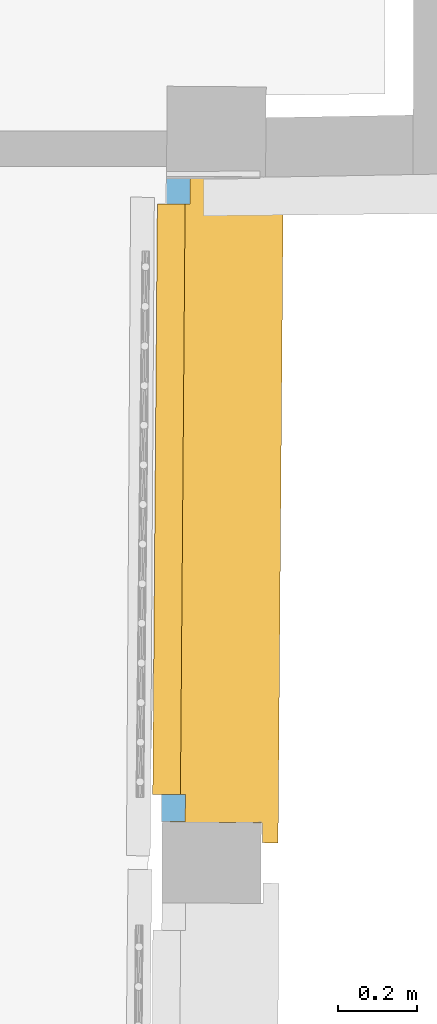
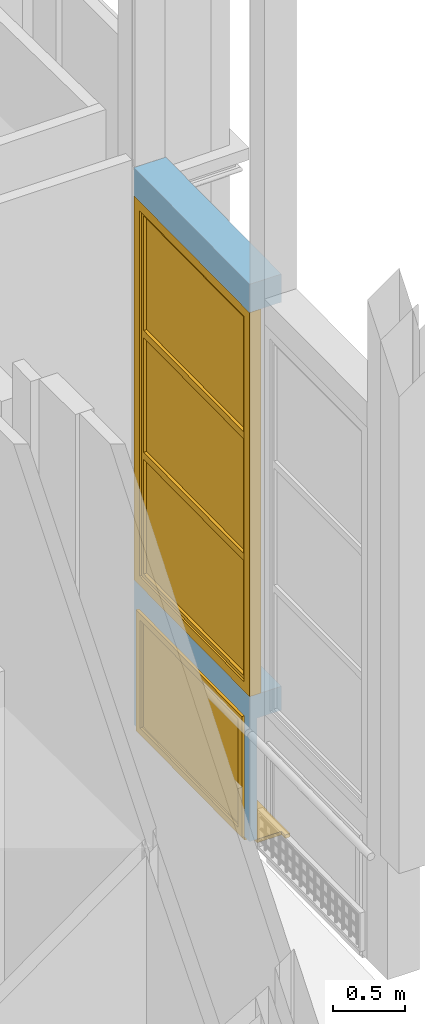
# One storey, part 62 of 97: 2 windows, 2 openings, plus 1 element that does not belong to this part.
"""IFC2X3 building model written with IfcOpenShell, lengths in centimetres."""

from ifc_helpers import new_model, entity, si_unit, converted_unit, direction, frame, origin, origin_with_axes, origin_2d_with_axis, place, context, subcontext, project, spatial, polyline, rectangle, outline, extrude, faceted_brep, shape, source, transform, mapped, material, material_list, layer, layer_set, layer_usage, type_object, element, fill, save


model = new_model("IFC2X3")

# Units and contexts
model_context = context("Model", 3, precision=0.0001, world=origin(), true_north=direction((0.225632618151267, 0.974212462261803, 0.0)))
body_context = subcontext(model_context, "Body", "Model", "MODEL_VIEW")
footprint_context = subcontext(model_context, "FootPrint", "Model", "MODEL_VIEW")
profile_context = subcontext(model_context, "Profile", "Model", "MODEL_VIEW")
ifc_project = project(units=[si_unit("LENGTHUNIT", "METRE", prefix="CENTI"), si_unit("AREAUNIT", "SQUARE_METRE", prefix="CENTI"), si_unit("VOLUMEUNIT", "CUBIC_METRE", prefix="CENTI"), converted_unit("PLANEANGLEUNIT", "DEGREE", entity("IfcRatioMeasure", 0.0174532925), si_unit("PLANEANGLEUNIT", "RADIAN"), dimensions=[0, 0, 0, 0, 0, 0, 0])], contexts=[model_context])

# Site, building, storey
site_placement = place(None, origin_with_axes())
site = spatial("IfcSite", under=ifc_project, at=site_placement, Name="Default Site", CompositionType="ELEMENT")
building_placement = place(site_placement, origin_with_axes())
building = spatial("IfcBuilding", under=site, at=building_placement, Name="Default Building", CompositionType="ELEMENT")
storey_placement = place(building_placement, origin_with_axes())
storey = spatial("IfcBuildingStorey", under=building, at=storey_placement, Name="Rez-de-chaussée", CompositionType="ELEMENT", Elevation=0.0)

# Wall, openings, windows
ifc_material_1 = material(Name="<aucun>")
ifc_layer = layer(ifc_material_1, 25.5)
ifc_layer_set = layer_set([ifc_layer], Name="default")
ifc_layer_usage = layer_usage(ifc_layer_set, "AXIS2", "POSITIVE", -12.75)
wall_type = type_object("IfcWallType", Name="default 255", PredefinedType="NOTDEFINED", material=ifc_layer_set)
wall_placement = place(storey_placement, frame((1084.07627129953, -12.2315382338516, 0.0128503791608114), z_axis=(0.0, 0.0, 1.0), x_axis=(0.00794666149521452, 0.999968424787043, 0.0)))
wall = element("IfcWallStandardCase", 1, at=wall_placement, inside=storey, type_object=wall_type, material=ifc_layer_usage, Name="Enveloppe 728194", context=body_context, shape_type="SweptSolid", body=[
    extrude(rectangle(XDim=162.842182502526, YDim=25.5000000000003, at=origin_2d_with_axis()), frame((81.58448390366, 0.0, -5.42101086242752e-18), z_axis=(0.0, 0.0, 1.0), x_axis=(1.0, 1.03909936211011e-15, 0.0)), (0.0, 0.0, 1.0), 472.782507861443),
])
opening_1_placement = place(wall_placement, frame((0.0223490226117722, -2.27373675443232e-13, 5.57268680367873e-06), z_axis=(0.0, 0.0, 1.0), x_axis=(-1.0, 5.72458747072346e-17, 0.0)))
cartesian_point_1 = entity("IfcCartesianPoint", [-5.55111512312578e-15, -1.77635683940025e-13, 102.685185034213])
cartesian_point_2 = entity("IfcCartesianPoint", [-163.038986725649, -12.7500000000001])
opening_1 = element("IfcOpeningElement", 2, at=opening_1_placement, cuts=wall, Name="4294966483_11", ObjectType="Opening", shapes=[
    shape(body_context, "Body", "Brep", [faceted_brep([(-7.0000001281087, -32.7499957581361, 102.685184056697), (-156.038984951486, -32.7499957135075, 102.685184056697), (-156.038984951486, -32.7499957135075, 2.34121050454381e-10), (-7.0000001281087, -32.7499957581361, 2.34121050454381e-10), (5.11833214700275e-08, 32.7499750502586, 2.34121050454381e-10), (-163.038987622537, 32.7499750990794, 2.34121050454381e-10), (-163.038987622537, 32.7499750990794, 102.685184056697), (5.11833214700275e-08, 32.7499750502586, 102.685184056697), (-7.00000012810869, -32.7499957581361, 2.34121050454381e-10), (-7.00000012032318, -6.75001022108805, 2.34121050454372e-10), (-7.00000012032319, -6.75001022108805, 102.685184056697), (-7.00000004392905, -6.75001022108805, 102.685184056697), (-7.00000004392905, -6.75001022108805, 2.34121050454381e-10), (-1.15235498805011e-07, -6.75001022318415, 2.34121050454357e-10), (-1.15235498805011e-07, -6.75001022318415, 102.685184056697), (-1.15235490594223e-07, -6.74998280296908, 102.685184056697), (-1.15235468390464e-07, -6.74998280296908, 2.34121050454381e-10), (-1.03407487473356e-07, 32.7499750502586, 2.34121050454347e-10), (-1.03407509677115e-07, 32.7499750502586, 102.685184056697), (-156.038984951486, -32.7499899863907, 2.34121050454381e-10), (-156.038984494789, -6.75000444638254, 2.34121050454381e-10), (-163.038984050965, -6.75003186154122, 2.34121050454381e-10), (-163.038987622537, 32.7500213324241, 2.34121050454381e-10), (-1.15235490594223e-07, -6.74998280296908, 2.34121050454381e-10), (-156.038984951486, -32.7499899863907, 102.685184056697), (-156.038984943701, -6.75000444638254, 102.685184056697), (-156.038984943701, -6.75000444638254, 2.34121050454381e-10), (-156.038984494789, -6.75000444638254, 102.685184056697), (-163.038984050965, -6.75000444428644, 102.685184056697), (-163.038984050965, -6.75000444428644, 2.34121050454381e-10), (-163.038984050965, -6.75003186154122, 102.685184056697), (-163.038984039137, 32.7500213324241, 102.685184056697), (-163.038984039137, 32.7500213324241, 2.34121050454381e-10), (-163.038987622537, 32.7500213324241, 102.685184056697)], [[[0, 1, 2, 3]], [[4, 5, 6, 7]], [[0, 8, 9, 10]], [[11, 12, 13, 14]], [[15, 16, 17, 18]], [[3, 19, 20, 21, 22, 4, 23, 12]], [[19, 24, 25, 26]], [[20, 27, 28, 29]], [[21, 30, 31, 32]], [[11, 15, 7, 33, 30, 27, 24, 0]]])]),
    shape(profile_context, "Profile", "GeometricCurveSet", [entity("IfcGeometricCurveSet", [entity("IfcPolyline", [cartesian_point_1, entity("IfcCartesianPoint", [1.38777878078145e-15, -1.77635683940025e-13, 0.0]), entity("IfcCartesianPoint", [-163.038986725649, 0.0, 0.0]), entity("IfcCartesianPoint", [-163.038986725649, 0.0, 102.685185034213]), cartesian_point_1])])]),
    shape(footprint_context, "FootPrint", "GeometricCurveSet", [entity("IfcGeometricCurveSet", [entity("IfcPolyline", [cartesian_point_2, entity("IfcCartesianPoint", [2.77555756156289e-15, -12.7500000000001]), entity("IfcCartesianPoint", [1.38777878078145e-15, 12.75]), entity("IfcCartesianPoint", [-163.038986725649, 12.75]), cartesian_point_2])])]),
])
opening_2_placement = place(wall_placement, frame((0.0664983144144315, 0.0, 122.979261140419), z_axis=(0.0, 0.0, 1.0), x_axis=(-1.0, 5.72458747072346e-17, 0.0)))
cartesian_point_3 = entity("IfcCartesianPoint", [-2.22044604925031e-14, 1.77635683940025e-13, 325.911572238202])
cartesian_point_4 = entity("IfcCartesianPoint", [-162.994837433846, -12.75])
opening_2 = element("IfcOpeningElement", 3, at=opening_2_placement, cuts=wall, Name="4294966480_11", ObjectType="Opening", shapes=[
    shape(body_context, "Body", "SweptSolid", [extrude(outline(polyline([(2.08166817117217e-14, 325.911572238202), (-1.38777878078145e-15, 0.0), (162.994837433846, 0.0), (162.994837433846, 325.911572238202), (2.08166817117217e-14, 325.911572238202)])), frame((0.0, -22.75, 0.0), z_axis=(0.0, 1.0, 0.0), x_axis=(-1.0, 0.0, 0.0)), (0.0, 0.0, 1.0), 45.5)]),
    shape(profile_context, "Profile", "GeometricCurveSet", [entity("IfcGeometricCurveSet", [entity("IfcPolyline", [cartesian_point_3, entity("IfcCartesianPoint", [0.0, 1.77635683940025e-13, 0.0]), entity("IfcCartesianPoint", [-162.994837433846, 1.77635683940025e-13, 0.0]), entity("IfcCartesianPoint", [-162.994837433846, 1.77635683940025e-13, 325.911572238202]), cartesian_point_3])])]),
    shape(footprint_context, "FootPrint", "GeometricCurveSet", [entity("IfcGeometricCurveSet", [entity("IfcPolyline", [cartesian_point_4, entity("IfcCartesianPoint", [1.38777878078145e-15, -12.75]), entity("IfcCartesianPoint", [-1.38777878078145e-15, 12.7500000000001]), entity("IfcCartesianPoint", [-162.994837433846, 12.7500000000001]), cartesian_point_4])])]),
])
ifc_material_2 = material(Name="Transparent")
ifc_material_3 = material(Name="Blanc trafic")
ifc_material_list_1 = material_list([ifc_material_2, ifc_material_3])
window_style_1 = type_object("IfcWindowStyle", Name="Fn 1 montant fixe 2 vitres ép 90", ConstructionType="NOTDEFINED", OperationType="TRIPLE_PANEL_HORIZONTAL", ParameterTakesPrecedence=True, Sizeable=False, material=ifc_material_list_1)
shared_shape = source(origin_with_axes(), body_context, "Body", "Brep", [
    faceted_brep([(-73.4974205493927, 317.911577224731, -4.50000017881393), (-73.4974205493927, 317.911577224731, 4.50000017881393), (-73.4974205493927, 7.99999982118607, 4.50000017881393), (-73.4974205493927, 7.99999982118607, -4.50000017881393), (-81.4974188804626, 325.911569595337, 4.50000017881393), (-81.4974188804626, 2.22044604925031e-14, 4.50000017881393), (-81.4974188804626, 325.911569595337, -4.50000017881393), (-81.4974188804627, 2.22044604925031e-14, -4.50000017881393), (-81.4974188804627, 2.22044604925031e-14, 4.50000017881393), (-81.4974188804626, 2.22044604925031e-14, -4.50000017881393), (73.4974205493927, 7.99999982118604, 4.50000017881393), (73.4974205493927, 7.99999982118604, -4.50000017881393), (81.4974188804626, 2.22044604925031e-14, 4.50000017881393), (73.4974205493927, 7.99999982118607, 4.50000017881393), (81.4974188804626, 2.22044604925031e-14, -4.50000017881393), (73.4974205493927, 7.99999982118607, -4.50000017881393), (73.4974205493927, 317.911577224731, 4.50000017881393), (73.4974205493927, 317.911577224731, -4.50000017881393), (81.4974188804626, 325.911569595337, 4.50000017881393), (81.4974188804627, 325.911569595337, -4.50000017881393), (81.4974188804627, 325.911569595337, 4.50000017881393), (81.4974188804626, 325.911569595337, -4.50000017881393)], [[[0, 1, 2, 3]], [[1, 4, 5, 2]], [[4, 6, 7, 8]], [[6, 0, 3, 9]], [[3, 2, 10, 11]], [[2, 5, 12, 13]], [[5, 9, 14, 12]], [[9, 3, 15, 14]], [[15, 13, 16, 17]], [[13, 12, 18, 16]], [[12, 14, 19, 20]], [[14, 15, 17, 21]], [[17, 16, 1, 0]], [[16, 18, 4, 1]], [[18, 21, 6, 4]], [[21, 17, 0, 6]]]),
    faceted_brep([(-70.4974174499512, 314.911580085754, -2.99999993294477), (-70.4974174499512, 314.911580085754, 2.99999993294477), (-70.4974174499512, 217.607712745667, 2.99999993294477), (-70.4974174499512, 217.607712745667, -2.99999993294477), (-73.4974205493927, 317.911577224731, 2.99999993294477), (-73.4974205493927, 214.607715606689, 2.99999993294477), (-73.4974205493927, 317.911577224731, -2.99999993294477), (-73.4974205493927, 214.607715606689, -2.99999993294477), (70.4974174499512, 217.607712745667, 2.99999993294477), (70.4974174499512, 217.607712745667, -2.99999993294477), (73.4974205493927, 214.607715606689, 2.99999993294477), (73.4974205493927, 214.607715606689, -2.99999993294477), (70.4974174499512, 314.911580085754, 2.99999993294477), (70.4974174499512, 314.911580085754, -2.99999993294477), (73.4974205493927, 317.911577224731, 2.99999993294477), (73.4974205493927, 317.911577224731, -2.99999993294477)], [[[0, 1, 2, 3]], [[1, 4, 5, 2]], [[4, 6, 7, 5]], [[6, 0, 3, 7]], [[3, 2, 8, 9]], [[2, 5, 10, 8]], [[5, 7, 11, 10]], [[7, 3, 9, 11]], [[9, 8, 12, 13]], [[8, 10, 14, 12]], [[10, 11, 15, 14]], [[11, 9, 13, 15]], [[13, 12, 1, 0]], [[12, 14, 4, 1]], [[14, 15, 6, 4]], [[15, 13, 0, 6]]]),
    faceted_brep([(70.4974174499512, 314.911580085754, -0.499999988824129), (70.4974174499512, 217.607712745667, -0.499999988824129), (-70.4974174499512, 217.607712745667, -0.499999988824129), (-70.4974174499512, 314.911580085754, -0.499999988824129), (-70.4974174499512, 314.911580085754, 0.499999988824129), (-70.4974174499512, 217.607712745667, 0.499999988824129), (70.4974174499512, 217.607712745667, 0.499999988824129), (70.4974174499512, 314.911580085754, 0.499999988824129)], [[[0, 1, 2, 3]], [[4, 5, 6, 7]], [[3, 2, 5, 4]], [[2, 1, 6, 5]], [[1, 0, 7, 6]], [[0, 3, 4, 7]]]),
    faceted_brep([(-70.4974174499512, 211.607718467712, -2.99999993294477), (-70.4974174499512, 211.607718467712, 2.99999993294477), (-70.4974174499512, 114.303863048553, 2.99999993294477), (-70.4974174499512, 114.303863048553, -2.99999993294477), (-73.4974205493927, 214.607715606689, 2.99999993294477), (-73.4974205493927, 111.303853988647, 2.99999993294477), (-73.4974205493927, 214.607715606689, -2.99999993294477), (-73.4974205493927, 111.303853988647, -2.99999993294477), (70.4974174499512, 114.303863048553, 2.99999993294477), (70.4974174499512, 114.303863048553, -2.99999993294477), (73.4974205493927, 111.303853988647, 2.99999993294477), (73.4974205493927, 111.303853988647, -2.99999993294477), (70.4974174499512, 211.607718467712, 2.99999993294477), (70.4974174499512, 211.607718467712, -2.99999993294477), (73.4974205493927, 214.607715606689, 2.99999993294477), (73.4974205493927, 214.607715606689, -2.99999993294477)], [[[0, 1, 2, 3]], [[1, 4, 5, 2]], [[4, 6, 7, 5]], [[6, 0, 3, 7]], [[3, 2, 8, 9]], [[2, 5, 10, 8]], [[5, 7, 11, 10]], [[7, 3, 9, 11]], [[9, 8, 12, 13]], [[8, 10, 14, 12]], [[10, 11, 15, 14]], [[11, 9, 13, 15]], [[13, 12, 1, 0]], [[12, 14, 4, 1]], [[14, 15, 6, 4]], [[15, 13, 0, 6]]]),
    faceted_brep([(70.4974174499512, 211.607718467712, -0.499999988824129), (70.4974174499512, 114.303863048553, -0.499999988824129), (-70.4974174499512, 114.303863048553, -0.499999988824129), (-70.4974174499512, 211.607718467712, -0.499999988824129), (-70.4974174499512, 211.607718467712, 0.499999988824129), (-70.4974174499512, 114.303863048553, 0.499999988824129), (70.4974174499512, 114.303863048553, 0.499999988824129), (70.4974174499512, 211.607718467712, 0.499999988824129)], [[[0, 1, 2, 3]], [[4, 5, 6, 7]], [[3, 2, 5, 4]], [[2, 1, 6, 5]], [[1, 0, 7, 6]], [[0, 3, 4, 7]]]),
    faceted_brep([(-70.4974174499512, 108.30385684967, -2.99999993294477), (-70.4974174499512, 108.30385684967, 2.99999993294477), (-70.4974174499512, 10.9999999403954, 2.99999993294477), (-70.4974174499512, 10.9999999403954, -2.99999993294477), (-73.4974205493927, 111.303853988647, 2.99999993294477), (-73.4974205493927, 7.99999982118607, 2.99999993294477), (-73.4974205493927, 111.303853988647, -2.99999993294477), (-73.4974205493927, 7.99999982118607, -2.99999993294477), (70.4974174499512, 10.9999999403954, 2.99999993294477), (70.4974174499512, 10.9999999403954, -2.99999993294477), (73.4974205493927, 7.99999982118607, 2.99999993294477), (73.4974205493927, 7.99999982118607, -2.99999993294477), (70.4974174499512, 108.30385684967, 2.99999993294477), (70.4974174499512, 108.30385684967, -2.99999993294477), (73.4974205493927, 111.303853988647, 2.99999993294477), (73.4974205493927, 111.303853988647, -2.99999993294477)], [[[0, 1, 2, 3]], [[1, 4, 5, 2]], [[4, 6, 7, 5]], [[6, 0, 3, 7]], [[3, 2, 8, 9]], [[2, 5, 10, 8]], [[5, 7, 11, 10]], [[7, 3, 9, 11]], [[9, 8, 12, 13]], [[8, 10, 14, 12]], [[10, 11, 15, 14]], [[11, 9, 13, 15]], [[13, 12, 1, 0]], [[12, 14, 4, 1]], [[14, 15, 6, 4]], [[15, 13, 0, 6]]]),
    faceted_brep([(70.4974174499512, 108.30385684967, -0.499999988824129), (70.4974174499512, 10.9999999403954, -0.499999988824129), (-70.4974174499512, 10.9999999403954, -0.499999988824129), (-70.4974174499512, 108.30385684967, -0.499999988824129), (-70.4974174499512, 108.30385684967, 0.499999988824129), (-70.4974174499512, 10.9999999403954, 0.499999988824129), (70.4974174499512, 10.9999999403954, 0.499999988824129), (70.4974174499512, 108.30385684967, 0.499999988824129)], [[[0, 1, 2, 3]], [[4, 5, 6, 7]], [[3, 2, 5, 4]], [[2, 1, 6, 5]], [[1, 0, 7, 6]], [[0, 3, 4, 7]]]),
])
window_1_placement = place(opening_2_placement, frame((-162.994837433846, -12.75, 0.0), z_axis=(0.0, 0.0, 1.0), x_axis=(1.0, 0.0, 0.0)))
window_1 = element("IfcWindow", 4, at=window_1_placement, inside=storey, type_object=window_style_1, material=ifc_material_list_1, Name="Fenêtre 728245", OverallHeight=325.911572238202, OverallWidth=162.994837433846, context=body_context, shape_type="MappedRepresentation", body=[
    mapped(shared_shape, transform((81.4974187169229, 4.49999999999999, -2.22044604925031e-14), x_axis=(-1.0, 0.0, 0.0), y_axis=(0.0, 0.0, 1.0), z_axis=(0.0, 1.0, 0.0), scale=1.0, scale2=1.0, scale3=1.0, uniform=False)),
])
fill(opening_2, window_1)
ifc_material_4 = material(Name="Blanc trafic")
ifc_material_list_2 = material_list([ifc_material_2, ifc_material_4, ifc_material_3])
window_style_2 = type_object("IfcWindowStyle", Name="F[R] VV", ConstructionType="NOTDEFINED", OperationType="SINGLE_PANEL", ParameterTakesPrecedence=True, Sizeable=False, material=ifc_material_list_2)
window_2_placement = place(opening_1_placement, frame((-156.038986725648, -8.00000000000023, 1.73472347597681e-18), z_axis=(0.0, 0.0, 1.0), x_axis=(1.0, 0.0, 0.0)))
window_2 = element("IfcWindow", 5, at=window_2_placement, inside=storey, type_object=window_style_2, material=ifc_material_list_2, Name="Fenêtre 728242", OverallHeight=102.685185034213, OverallWidth=149.038986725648, context=body_context, shape_type="Brep", body=[
    faceted_brep([(-6.99999717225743, 20.7499811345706, 2.34121050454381e-10), (-6.99999732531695, 1.24996813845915, 2.34121050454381e-10), (2.23085934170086e-06, 1.24999555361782, 2.34121050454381e-10), (-1.19261642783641e-06, -4.75004515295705, 2.34121050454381e-10), (149.038986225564, -4.74995553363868, 2.34121050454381e-10), (149.038986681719, 1.24998977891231, 2.34121050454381e-10), (156.038986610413, 1.25001719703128, 2.34121050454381e-10), (156.038986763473, 20.7500301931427, 2.34121050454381e-10), (161.038987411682, 20.7499952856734, 2.34121050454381e-10), (161.038986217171, 24.75002239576, 2.34121050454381e-10), (-12.000001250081, 24.750043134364, 2.34121050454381e-10), (-11.9999955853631, 20.750016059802, 2.34121050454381e-10), (-11.9999955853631, 20.750016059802, -2.9999999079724), (-12.000001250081, 24.750043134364, -2.9999999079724), (161.038986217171, 24.75002239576, -2.9999999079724), (161.038987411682, 20.7499952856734, -2.9999999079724), (156.038986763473, 20.7500301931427, -2.9999999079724), (156.038986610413, 1.25001719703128, -2.9999999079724), (149.038986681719, 1.24998977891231, -2.9999999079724), (149.038986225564, -4.74995553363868, -2.9999999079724), (-1.19261642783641e-06, -4.75004515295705, -2.9999999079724), (2.23085934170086e-06, 1.24999555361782, -2.9999999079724), (-6.99999732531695, 1.24996813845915, -2.9999999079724), (-6.99999717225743, 20.7499811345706, -2.9999999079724), (-11.9999955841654, 24.750043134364, 2.34121050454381e-10), (-11.9999955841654, 24.750043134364, -2.9999999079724), (161.038986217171, 24.7500430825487, 2.34121050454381e-10), (161.038986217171, 24.7500430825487, -2.9999999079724), (161.038986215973, 20.7499952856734, 2.34121050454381e-10), (161.038986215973, 20.7499952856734, -2.9999999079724), (156.038986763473, 20.7499952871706, 2.34121050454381e-10), (156.038986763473, 20.7499952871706, -2.9999999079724), (156.038986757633, 1.25001719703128, 2.34121050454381e-10), (156.038986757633, 1.25001719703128, -2.9999999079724), (149.038986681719, 1.25001719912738, 2.34121050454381e-10), (149.038986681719, 1.25001719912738, -2.9999999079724), (149.038986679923, -4.74995553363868, 2.34121050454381e-10), (149.038986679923, -4.74995553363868, -2.9999999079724), (-1.19261640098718e-06, -4.74995548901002, 2.34121050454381e-10), (-1.19261640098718e-06, -4.74995548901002, -2.9999999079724), (-1.19081975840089e-06, 1.24999555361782, 2.34121050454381e-10), (-1.19081975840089e-06, 1.24999555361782, -2.9999999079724), (-6.99999732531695, 1.24999555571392, 2.34121050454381e-10), (-6.99999732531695, 1.24999555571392, -2.9999999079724), (-6.99999731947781, 20.7499811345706, 2.34121050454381e-10), (-6.99999731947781, 20.7499811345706, -2.9999999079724), (-11.9999955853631, 20.7499811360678, 2.34121050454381e-10), (-11.9999955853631, 20.7499811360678, -2.9999999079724)], [[[0, 1, 2, 3, 4, 5, 6, 7, 8, 9, 10, 11]], [[12, 13, 14, 15, 16, 17, 18, 19, 20, 21, 22, 23]], [[11, 24, 25, 12]], [[10, 26, 27, 13]], [[9, 28, 29, 14]], [[8, 30, 31, 15]], [[7, 32, 33, 16]], [[6, 34, 35, 17]], [[5, 36, 37, 18]], [[4, 38, 39, 19]], [[3, 40, 41, 20]], [[2, 42, 43, 21]], [[1, 44, 45, 22]], [[0, 46, 47, 23]]]),
    faceted_brep([(143.538983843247, -7.00000002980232, 97.1851825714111), (142.538984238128, -6.00000042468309, 96.1851835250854), (142.538984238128, -6.00000042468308, 6.49999976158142), (143.538983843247, -7.00000002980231, 5.49999997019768), (142.538984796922, -5.99999986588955, 96.1851835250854), (142.538984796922, -0.999999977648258, 96.1851835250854), (142.538984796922, -0.999999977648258, 6.49999976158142), (142.538984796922, -5.99999986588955, 6.49999976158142), (143.538984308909, -4.65661287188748e-07, 97.1851825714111), (143.538984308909, -4.65661302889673e-07, 5.49999997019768), (142.538984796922, -0.999999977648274, 6.49999976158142), (143.538983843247, 0.0, 97.1851825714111), (149.038984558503, 0.0, 102.685189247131), (149.038984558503, 0.0, 2.71050543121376e-18), (143.538983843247, 0.0, 5.49999997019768), (149.038984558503, -7.00000002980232, 102.685189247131), (149.038984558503, -7.00000002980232, 2.71050543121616e-18), (149.038984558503, 0.0, 2.71050543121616e-18), (143.538983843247, -7.00000002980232, 5.49999997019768), (149.038984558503, -7.00000002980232, 2.71050543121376e-18), (142.538984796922, -6.00000005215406, 6.49999994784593), (6.50000192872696, -6.00000005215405, 6.49999994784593), (5.50000288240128, -7.00000002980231, 5.49999997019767), (6.50000192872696, -0.999999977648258, 6.4999997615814), (6.50000192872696, -5.99999986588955, 6.4999997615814), (143.538983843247, -9.31322573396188e-08, 5.49999987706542), (5.50000288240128, -9.31322524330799e-08, 5.49999987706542), (6.50000192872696, -0.999999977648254, 6.49999976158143), (2.167145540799e-06, 0.0, 2.71050543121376e-18), (5.50000288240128, 0.0, 5.49999997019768), (2.167145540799e-06, -7.00000002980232, 2.71050543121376e-18), (5.50000288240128, -7.00000002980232, 5.49999997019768), (6.50000248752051, -6.00000042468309, 6.49999976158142), (6.50000248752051, -6.00000042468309, 96.1851835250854), (5.50000288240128, -7.00000002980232, 97.1851825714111), (6.50000192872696, -5.99999986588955, 6.49999976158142), (6.50000192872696, -0.999999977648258, 6.49999976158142), (6.50000192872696, -0.999999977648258, 96.1851835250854), (6.50000192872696, -5.99999986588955, 96.1851835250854), (5.50000241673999, -4.65661287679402e-07, 5.49999997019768), (5.50000241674, -4.65661276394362e-07, 97.1851825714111), (6.50000192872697, -0.999999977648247, 96.1851835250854), (2.167145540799e-06, 0.0, 102.685189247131), (5.50000288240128, 0.0, 97.1851825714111), (2.167145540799e-06, -7.00000002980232, 102.685189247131), (6.50000192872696, -6.00000042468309, 96.1851829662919), (142.538984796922, -6.00000042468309, 96.1851829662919), (5.50000288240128, -4.65661287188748e-07, 97.1851830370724), (143.538983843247, -4.6566129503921e-07, 97.1851830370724), (142.538984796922, -0.999999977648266, 96.1851835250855)], [[[0, 1, 2, 3]], [[4, 5, 6, 7]], [[5, 8, 9, 10]], [[11, 12, 13, 14]], [[12, 15, 16, 17]], [[15, 0, 18, 19]], [[18, 20, 21, 22]], [[7, 6, 23, 24]], [[6, 25, 26, 27]], [[14, 13, 28, 29]], [[13, 19, 30, 28]], [[19, 18, 31, 30]], [[31, 32, 33, 34]], [[35, 36, 37, 38]], [[36, 39, 40, 41]], [[29, 28, 42, 43]], [[28, 30, 44, 42]], [[30, 31, 34, 44]], [[34, 45, 46, 0]], [[38, 37, 5, 4]], [[37, 47, 48, 49]], [[43, 42, 12, 11]], [[42, 44, 15, 12]], [[44, 34, 0, 15]]]),
    faceted_brep([(6.50000192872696, -4.89999987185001, 96.1851835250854), (6.50000192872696, -4.89999987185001, 6.49999976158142), (142.538984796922, -4.89999987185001, 6.49999976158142), (142.538984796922, -4.89999987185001, 96.1851835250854), (142.538984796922, -2.09999997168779, 96.1851835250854), (142.538984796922, -2.09999997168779, 6.49999976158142), (6.50000192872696, -2.09999997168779, 6.49999976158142), (6.50000192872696, -2.09999997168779, 96.1851835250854)], [[[0, 1, 2, 3]], [[4, 5, 6, 7]], [[3, 2, 5, 4]], [[2, 1, 6, 5]], [[1, 0, 7, 6]], [[0, 3, 4, 7]]]),
])
fill(opening_1, window_2)

save(model, "model.ifc")
